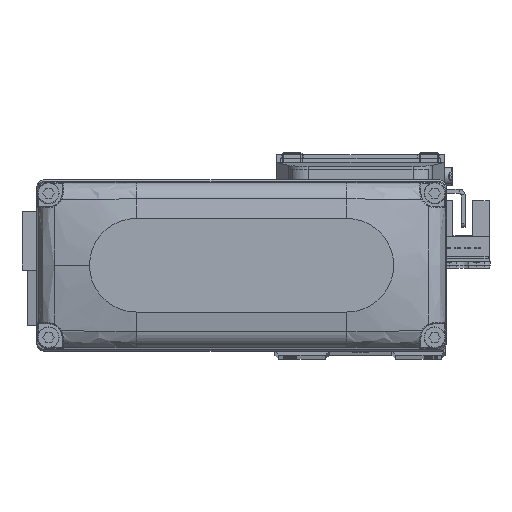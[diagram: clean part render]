
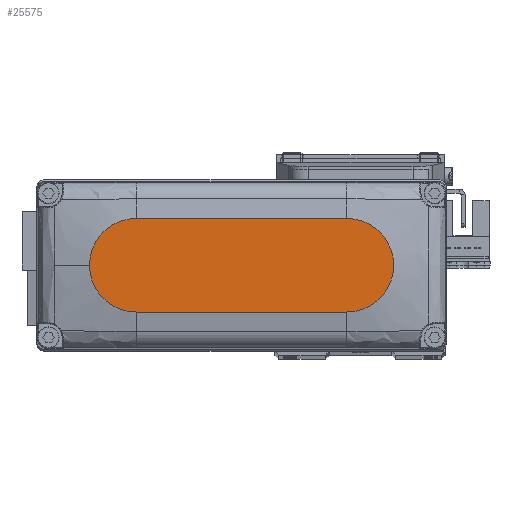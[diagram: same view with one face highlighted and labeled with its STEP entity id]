
A CAD part, top view. The second image highlights one B-rep face of the part: STEP entity #25575.
In plain terms, the highlighted planar face has unit normal (0, 0, 1).
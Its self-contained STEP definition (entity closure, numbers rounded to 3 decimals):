
#1514 = DIRECTION ( 'NONE',  ( 1., 0., 0. ) ) ;
#1535 = LINE ( 'NONE', #13828, #21262 ) ;
#1782 = DIRECTION ( 'NONE',  ( 0., 0., 1. ) ) ;
#1864 = AXIS2_PLACEMENT_3D ( 'NONE', #10302, #22592, #34891 ) ;
#2100 = FACE_OUTER_BOUND ( 'NONE', #30641, .T. ) ;
#3736 = ORIENTED_EDGE ( 'NONE', *, *, #9104, .T. ) ;
#4951 = CARTESIAN_POINT ( 'NONE',  ( -27., -12., 25. ) ) ;
#7035 = AXIS2_PLACEMENT_3D ( 'NONE', #16814, #29110, #1514 ) ;
#9104 = EDGE_CURVE ( 'NONE', #32275, #13121, #32545, .T. ) ;
#10302 = CARTESIAN_POINT ( 'NONE',  ( 27., 0., 25. ) ) ;
#11353 = DIRECTION ( 'NONE',  ( 1., 0., 0. ) ) ;
#12059 = ORIENTED_EDGE ( 'NONE', *, *, #16289, .T. ) ;
#12635 = CARTESIAN_POINT ( 'NONE',  ( 27., -12., 25. ) ) ;
#13121 = VERTEX_POINT ( 'NONE', #12635 ) ;
#13470 = CARTESIAN_POINT ( 'NONE',  ( -27., 12., 25. ) ) ;
#13782 = CARTESIAN_POINT ( 'NONE',  ( 39., 0., 25. ) ) ;
#13828 = CARTESIAN_POINT ( 'NONE',  ( -27., 12., 25. ) ) ;
#14072 = DIRECTION ( 'NONE',  ( 1., 0., 0. ) ) ;
#14389 = PLANE ( 'NONE',  #33807 ) ;
#15837 = EDGE_CURVE ( 'NONE', #18093, #20637, #35396, .T. ) ;
#16289 = EDGE_CURVE ( 'NONE', #20637, #35753, #1535, .T. ) ;
#16814 = CARTESIAN_POINT ( 'NONE',  ( -27., 0., 25. ) ) ;
#17223 = DIRECTION ( 'NONE',  ( 1., 0., 0. ) ) ;
#18016 = AXIS2_PLACEMENT_3D ( 'NONE', #29387, #1782, #14072 ) ;
#18093 = VERTEX_POINT ( 'NONE', #13782 ) ;
#18342 = VECTOR ( 'NONE', #17223, 1000. ) ;
#19209 = CIRCLE ( 'NONE', #1864, 12. ) ;
#19438 = CARTESIAN_POINT ( 'NONE',  ( -27., -12., 25. ) ) ;
#20547 = ORIENTED_EDGE ( 'NONE', *, *, #15837, .T. ) ;
#20637 = VERTEX_POINT ( 'NONE', #30907 ) ;
#21262 = VECTOR ( 'NONE', #26106, 1000. ) ;
#22592 = DIRECTION ( 'NONE',  ( 0., 0., 1. ) ) ;
#24412 = CIRCLE ( 'NONE', #7035, 12. ) ;
#25575 = ADVANCED_FACE ( 'NONE', ( #2100 ), #14389, .T. ) ;
#26106 = DIRECTION ( 'NONE',  ( -1., 0., 0. ) ) ;
#26679 = CARTESIAN_POINT ( 'NONE',  ( 0., 0., 25. ) ) ;
#29110 = DIRECTION ( 'NONE',  ( 0., 0., 1. ) ) ;
#29387 = CARTESIAN_POINT ( 'NONE',  ( 27., 0., 25. ) ) ;
#30641 = EDGE_LOOP ( 'NONE', ( #12059, #32409, #3736, #31030, #20547 ) ) ;
#30907 = CARTESIAN_POINT ( 'NONE',  ( 27., 12., 25. ) ) ;
#31030 = ORIENTED_EDGE ( 'NONE', *, *, #37262, .T. ) ;
#32275 = VERTEX_POINT ( 'NONE', #19438 ) ;
#32409 = ORIENTED_EDGE ( 'NONE', *, *, #33059, .T. ) ;
#32545 = LINE ( 'NONE', #4951, #18342 ) ;
#33059 = EDGE_CURVE ( 'NONE', #35753, #32275, #24412, .T. ) ;
#33807 = AXIS2_PLACEMENT_3D ( 'NONE', #26679, #38974, #11353 ) ;
#34891 = DIRECTION ( 'NONE',  ( 1., 0., 0. ) ) ;
#35396 = CIRCLE ( 'NONE', #18016, 12. ) ;
#35753 = VERTEX_POINT ( 'NONE', #13470 ) ;
#37262 = EDGE_CURVE ( 'NONE', #13121, #18093, #19209, .T. ) ;
#38974 = DIRECTION ( 'NONE',  ( 0., 0., 1. ) ) ;
